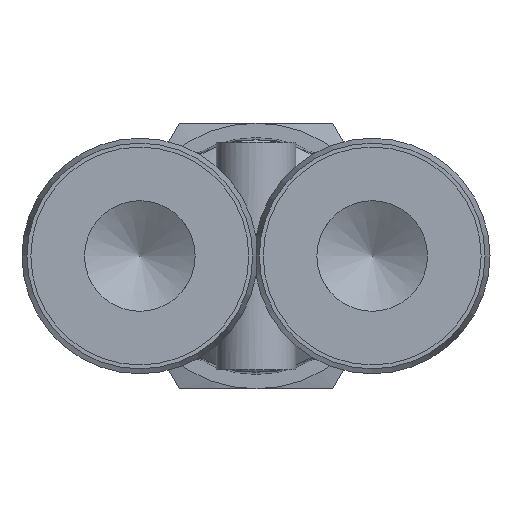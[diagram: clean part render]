
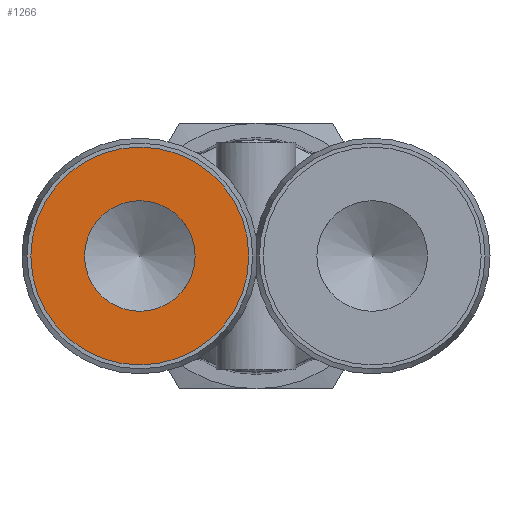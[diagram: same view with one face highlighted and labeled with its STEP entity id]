
A CAD part, front view. The second image highlights one B-rep face of the part: STEP entity #1266.
In plain terms, the highlighted planar face has unit normal (0, -1, 0).
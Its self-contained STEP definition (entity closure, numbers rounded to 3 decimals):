
#101=FACE_BOUND('',#255,.T.);
#118=PLANE('',#1425);
#171=FACE_OUTER_BOUND('',#254,.T.);
#254=EDGE_LOOP('',(#1025,#1026));
#255=EDGE_LOOP('',(#1027,#1028));
#422=CIRCLE('',#1384,5.);
#423=CIRCLE('',#1385,5.);
#446=CIRCLE('',#1423,9.85);
#447=CIRCLE('',#1424,9.85);
#544=VERTEX_POINT('',#2379);
#545=VERTEX_POINT('',#2380);
#566=VERTEX_POINT('',#2463);
#567=VERTEX_POINT('',#2464);
#694=EDGE_CURVE('',#544,#545,#422,.T.);
#695=EDGE_CURVE('',#545,#544,#423,.T.);
#731=EDGE_CURVE('',#566,#567,#446,.T.);
#733=EDGE_CURVE('',#567,#566,#447,.T.);
#1025=ORIENTED_EDGE('',*,*,#731,.F.);
#1026=ORIENTED_EDGE('',*,*,#733,.F.);
#1027=ORIENTED_EDGE('',*,*,#694,.T.);
#1028=ORIENTED_EDGE('',*,*,#695,.T.);
#1266=ADVANCED_FACE('',(#171,#101),#118,.F.);
#1384=AXIS2_PLACEMENT_3D('',#2381,#1638,#1639);
#1385=AXIS2_PLACEMENT_3D('',#2382,#1640,#1641);
#1423=AXIS2_PLACEMENT_3D('',#2465,#1727,#1728);
#1424=AXIS2_PLACEMENT_3D('',#2467,#1730,#1731);
#1425=AXIS2_PLACEMENT_3D('',#2468,#1732,#1733);
#1638=DIRECTION('center_axis',(0.,1.,0.));
#1639=DIRECTION('ref_axis',(1.,0.,0.));
#1640=DIRECTION('center_axis',(0.,1.,0.));
#1641=DIRECTION('ref_axis',(1.,0.,0.));
#1727=DIRECTION('center_axis',(0.,1.,0.));
#1728=DIRECTION('ref_axis',(-1.,0.,0.));
#1730=DIRECTION('center_axis',(0.,1.,0.));
#1731=DIRECTION('ref_axis',(-1.,0.,0.));
#1732=DIRECTION('center_axis',(0.,1.,0.));
#1733=DIRECTION('ref_axis',(0.,0.,-1.));
#2379=CARTESIAN_POINT('',(-5.5,-20.7,0.));
#2380=CARTESIAN_POINT('',(-15.5,-20.7,0.));
#2381=CARTESIAN_POINT('Origin',(-10.5,-20.7,0.));
#2382=CARTESIAN_POINT('Origin',(-10.5,-20.7,0.));
#2463=CARTESIAN_POINT('',(-20.35,-20.7,0.));
#2464=CARTESIAN_POINT('',(-0.65,-20.7,0.));
#2465=CARTESIAN_POINT('Origin',(-10.5,-20.7,0.));
#2467=CARTESIAN_POINT('Origin',(-10.5,-20.7,0.));
#2468=CARTESIAN_POINT('Origin',(-10.5,-20.7,0.));
